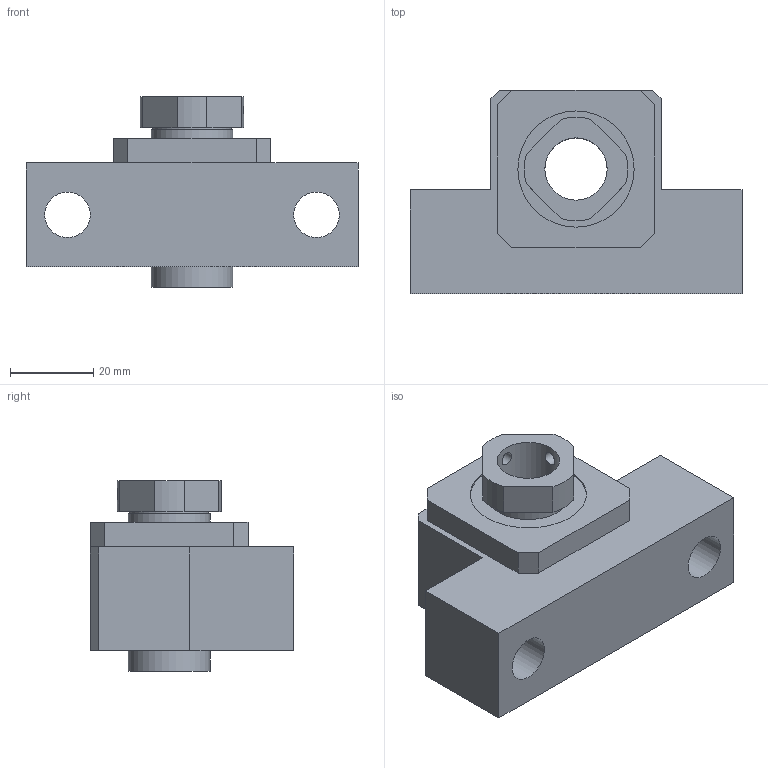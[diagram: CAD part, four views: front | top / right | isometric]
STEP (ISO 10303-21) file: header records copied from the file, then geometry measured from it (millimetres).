
FILE_DESCRIPTION(/* description */ (''),/* implementation_level */ '2;1');
FILE_NAME(/* name */ 'C:\Users\tenki620635\Desktop\官網\圖面\軸承座\3D\setp檔\EK15.stp',/* time_stamp */ '2020-12-18T19:19:01+08:00',/* author */ ('tenki620635'),/* organization */ (''),/* preprocessor_version */ 'ST-DEVELOPER v15.2',/* originating_system */ 'Autodesk Inventor 2014',/* authorisation */ '');
FILE_SCHEMA (('AUTOMOTIVE_DESIGN { 1 0 10303 214 3 1 1 }'));
Length unit declared in the file: millimetre
Products named in the file (1): EK15
Bounding box: 80 x 49 x 46 mm (x, y, z)
Volume: 75338.9 mm3; surface area: 17951.2 mm2
Topology: 1 solids, 1 shells, 44 faces, 116 edges, 79 vertices
Faces by surface type: plane 30, cylinder 14
Full cylindrical faces by diameter (mm): 3.242 x2, 11 x2, 15 x1, 19 x1, 19.7 x2, 28 x2
Entity records: 1429 total; most frequent: CARTESIAN_POINT 355, DIRECTION 208, ORIENTED_EDGE 200, EDGE_CURVE 100, VERTEX_POINT 74, LINE 70, VECTOR 70, EDGE_LOOP 70
